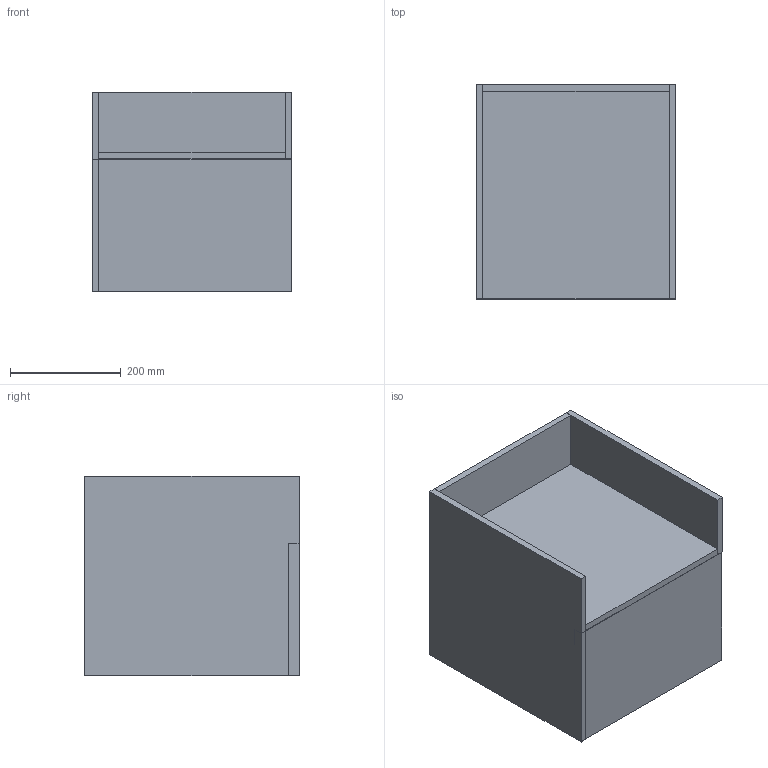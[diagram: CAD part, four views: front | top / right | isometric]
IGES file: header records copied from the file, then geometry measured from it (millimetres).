
Start section: Data from Parasolid IGES Translator 19.0.9, Copyright(c) 2006 Siemens PL M Software. All Rights Reserved.
Global section: file name: noorth-SI-H 36 D 38,8 W 37,2_8882.igs; native system: By Siemens PLM Incorporated; preprocessor: XPlus GENERIC/IGES 19.0.9; author: Noname; organization: Noname; date: 20200601.092330; units: metre
Bounding box: 360.01 x 386 x 360 mm (x, y, z)
Volume: 11307637.7 mm3; surface area: 1818540.8 mm2
Topology: 9 solids, 9 shells, 54 faces, 108 edges, 72 vertices
Faces by surface type: plane 54
